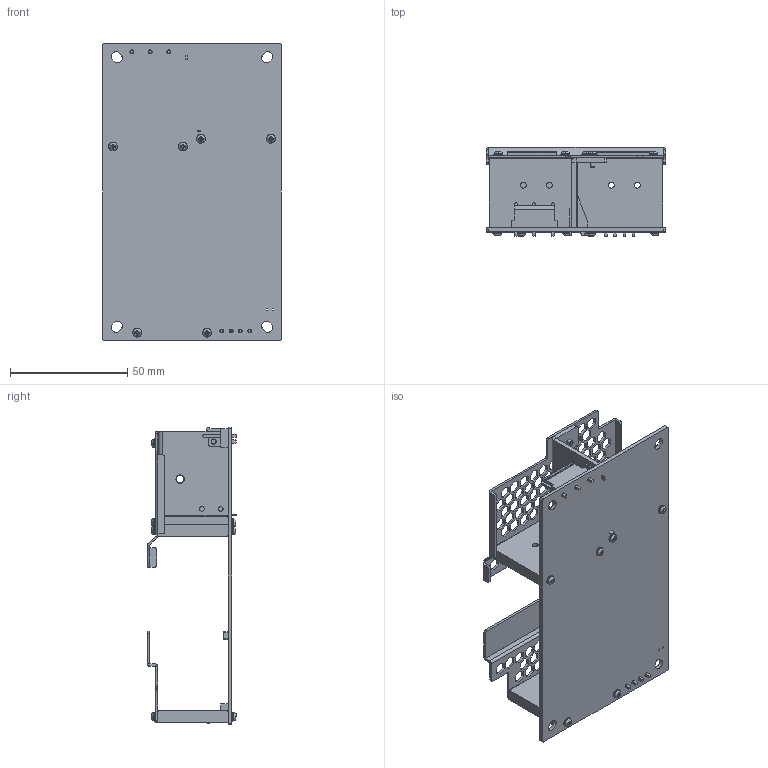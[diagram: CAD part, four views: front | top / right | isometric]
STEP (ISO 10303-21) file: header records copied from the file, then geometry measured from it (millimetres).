
FILE_DESCRIPTION((''),'2;1');
FILE_NAME('PJL-48V400WBAAR_ASM','2019-05-15T',('Pattrapol.Seng'),(''),'PRO/ENGINEER BY PARAMETRIC TECHNOLOGY CORPORATION, 2010180','PRO/ENGINEER BY PARAMETRIC TECHNOLOGY CORPORATION, 2010180','');
FILE_SCHEMA(('CONFIG_CONTROL_DESIGN','SHAPE_APPEARANCE_LAYERS_GROUPS'));
Products named in the file (19): PWB_MAINBOARD; 3070953531_JST_AF0; 3071125231_JST_AF0; 334777900000; 334777900000_A_C095_CIM; 334777900000_A_C004R_CHIN-I; 334777900000_ASM; ASSY_HS1_AF0_ASM; 334748810101; ASSY_HS2_AF0_ASM; ASSY_HS3_AF0_ASM; ASSY_HS4_ASM; 3105042000; ASSY_MAINBOARD_AF0_ASM; SPEC-LABEL; 334777870000; 334778240101; EE_VR_0601113118; PJL-48V400WBAAR_ASM
Assembly tree (32 placements, depth 5):
  PJL-48V400WBAAR_ASM
    ASSY_MAINBOARD_AF0_ASM
      PWB_MAINBOARD
      3070953531_JST_AF0
      3071125231_JST_AF0
      ASSY_HS1_AF0_ASM
        334777900000_ASM
          334777900000
          334777900000_A_C095_CIM
          334777900000_A_C004R_CHIN-I
      ASSY_HS2_AF0_ASM
        334748810101
      ASSY_HS3_AF0_ASM
        334748810101
      ASSY_HS4_ASM
        334748810101
      3105042000  x6
    SPEC-LABEL
    334777870000
    3105042000  x7
    334778240101
    EE_VR_0601113118
Bounding box: 76.6 x 38.1 x 127 mm (x, y, z)
Volume: 40416 mm3; surface area: 48339.2 mm2
Topology: 26 solids, 39 shells, 2495 faces, 6639 edges, 4205 vertices
Faces by surface type: plane 1908, cylinder 261, cone 144, bspline 130, torus 52
Entity records: 82383 total; most frequent: CARTESIAN_POINT 9450, ORIENTED_EDGE 8942, DIRECTION 8212, PRESENTATION_STYLE_ASSIGNMENT 5875, STYLED_ITEM 4483, CURVE_STYLE 4471, EDGE_CURVE 4471, VECTOR 4070
